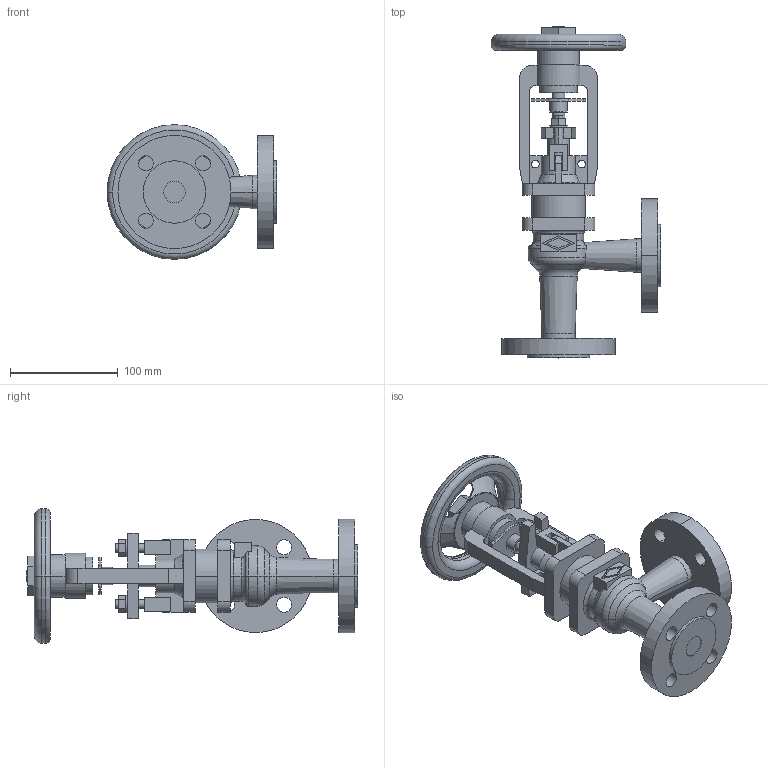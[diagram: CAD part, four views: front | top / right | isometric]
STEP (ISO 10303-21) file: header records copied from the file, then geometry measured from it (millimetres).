
FILE_DESCRIPTION(('OneSpaceDesigner STEP Export'),'2;1');
FILE_NAME('c000004435.stp','2010-05-17T 9:37:25',(''),(''),'OneSpace Designer STEP processor for AP214 (Solid Model)','OneSpace Modeling 15.50B 03-Nov-2007 (C) CoCreate Software GmbH','');
FILE_SCHEMA(('AUTOMOTIVE_DESIGN { 1 0 10303 214 1 1 1 1 }'));
Length unit declared in the file: millimetre
Products named in the file (1): 1
Bounding box: 157.5 x 308 x 125 mm (x, y, z)
Volume: 825437.9 mm3; surface area: 154841.6 mm2
Topology: 1 solids, 1 shells, 295 faces, 775 edges, 505 vertices
Faces by surface type: plane 140, cylinder 113, torus 26, cone 16
Entity records: 11464 total; most frequent: CARTESIAN_POINT 2134, ORIENTED_EDGE 1550, DIRECTION 1306, EDGE_CURVE 775, VERTEX_POINT 505, AXIS2_PLACEMENT_3D 441, VECTOR 424, LINE 424
